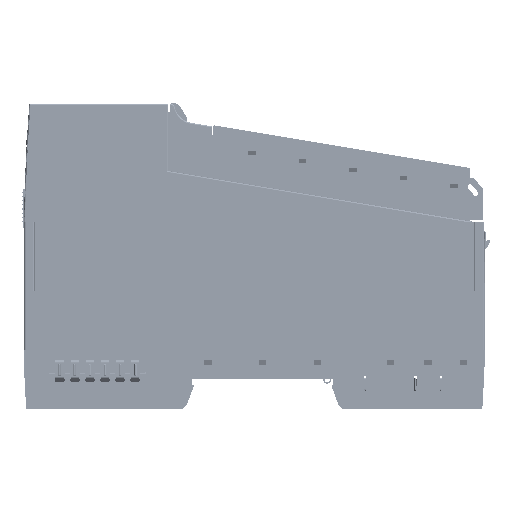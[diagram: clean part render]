
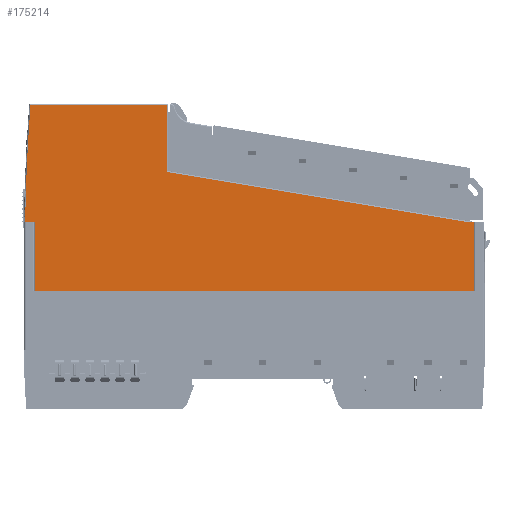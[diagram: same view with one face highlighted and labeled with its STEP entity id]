
A CAD part, left-side view. The second image highlights one B-rep face of the part: STEP entity #175214.
In plain terms, the highlighted planar face has unit normal (-1, 0, 0).
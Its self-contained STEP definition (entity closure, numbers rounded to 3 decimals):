
#2025 = VERTEX_POINT ( 'NONE', #106211 ) ;
#9051 = FACE_OUTER_BOUND ( 'NONE', #112896, .T. ) ;
#10006 = LINE ( 'NONE', #313003, #12385 ) ;
#12385 = VECTOR ( 'NONE', #236798, 1000. ) ;
#15262 = DIRECTION ( 'NONE',  ( 0., 0., -1. ) ) ;
#17752 = DIRECTION ( 'NONE',  ( 0., 0., -1. ) ) ;
#18483 = VECTOR ( 'NONE', #97187, 1000. ) ;
#25644 = AXIS2_PLACEMENT_3D ( 'NONE', #188405, #289984, #244167 ) ;
#29007 = EDGE_CURVE ( 'NONE', #291456, #278086, #188710, .T. ) ;
#33957 = CARTESIAN_POINT ( 'NONE',  ( -6.9, -51.3, 0. ) ) ;
#34729 = CARTESIAN_POINT ( 'NONE',  ( -6.9, -14.43, 14.623 ) ) ;
#43679 = LINE ( 'NONE', #297579, #152074 ) ;
#45323 = DIRECTION ( 'NONE',  ( 0., 0., 1. ) ) ;
#54159 = DIRECTION ( 'NONE',  ( 0., -1., 0. ) ) ;
#57132 = VECTOR ( 'NONE', #17752, 1000. ) ;
#60026 = CARTESIAN_POINT ( 'NONE',  ( -6.9, -51.3, -7.5 ) ) ;
#70711 = LINE ( 'NONE', #72382, #120027 ) ;
#72382 = CARTESIAN_POINT ( 'NONE',  ( -6.9, 55.3, 0. ) ) ;
#73496 = CARTESIAN_POINT ( 'NONE',  ( -6.9, 55.301, 9. ) ) ;
#76142 = CARTESIAN_POINT ( 'NONE',  ( -6.9, 55.3, -7.5 ) ) ;
#77015 = CARTESIAN_POINT ( 'NONE',  ( -6.9, -51.3, 9. ) ) ;
#85056 = ORIENTED_EDGE ( 'NONE', *, *, #134827, .F. ) ;
#91879 = ORIENTED_EDGE ( 'NONE', *, *, #273527, .F. ) ;
#97187 = DIRECTION ( 'NONE',  ( 0., 1., 0. ) ) ;
#102208 = LINE ( 'NONE', #73496, #18483 ) ;
#106211 = CARTESIAN_POINT ( 'NONE',  ( -6.9, 56.499, 9. ) ) ;
#109974 = ORIENTED_EDGE ( 'NONE', *, *, #196902, .F. ) ;
#112377 = VERTEX_POINT ( 'NONE', #77015 ) ;
#112896 = EDGE_LOOP ( 'NONE', ( #85056, #91879, #169360, #313225, #187881, #162993, #303193, #109974, #229846 ) ) ;
#120027 = VECTOR ( 'NONE', #45323, 1000. ) ;
#134827 = EDGE_CURVE ( 'NONE', #160859, #291456, #147960, .T. ) ;
#141014 = VECTOR ( 'NONE', #15262, 1000. ) ;
#147960 = LINE ( 'NONE', #249517, #57132 ) ;
#150134 = VERTEX_POINT ( 'NONE', #168495 ) ;
#152074 = VECTOR ( 'NONE', #170588, 1000. ) ;
#152371 = CARTESIAN_POINT ( 'NONE',  ( -6.9, -51.3, -7.5 ) ) ;
#157083 = EDGE_CURVE ( 'NONE', #209231, #187325, #70711, .T. ) ;
#159753 = DIRECTION ( 'NONE',  ( 1., 0., 0. ) ) ;
#160859 = VERTEX_POINT ( 'NONE', #273615 ) ;
#162993 = ORIENTED_EDGE ( 'NONE', *, *, #247109, .T. ) ;
#168495 = CARTESIAN_POINT ( 'NONE',  ( -6.9, 55.23, 36.7 ) ) ;
#169360 = ORIENTED_EDGE ( 'NONE', *, *, #192914, .F. ) ;
#170588 = DIRECTION ( 'NONE',  ( 0., -1., 0. ) ) ;
#175214 = ADVANCED_FACE ( 'NONE', ( #9051 ), #191740, .T. ) ;
#178777 = EDGE_CURVE ( 'NONE', #112377, #248101, #221654, .T. ) ;
#187325 = VERTEX_POINT ( 'NONE', #223234 ) ;
#187881 = ORIENTED_EDGE ( 'NONE', *, *, #157083, .F. ) ;
#188405 = CARTESIAN_POINT ( 'NONE',  ( -6.9, -50., 0. ) ) ;
#188710 = LINE ( 'NONE', #34729, #233278 ) ;
#191740 = PLANE ( 'NONE',  #25644 ) ;
#192914 = EDGE_CURVE ( 'NONE', #2025, #150134, #248665, .T. ) ;
#194778 = CARTESIAN_POINT ( 'NONE',  ( -6.9, -48.175, 9. ) ) ;
#196902 = EDGE_CURVE ( 'NONE', #278086, #112377, #10006, .T. ) ;
#209231 = VERTEX_POINT ( 'NONE', #76142 ) ;
#211674 = CARTESIAN_POINT ( 'NONE',  ( -6.9, 22.8, 20.826 ) ) ;
#213885 = DIRECTION ( 'NONE',  ( 0., 0.999, 0.046 ) ) ;
#221654 = LINE ( 'NONE', #33957, #141014 ) ;
#223234 = CARTESIAN_POINT ( 'NONE',  ( -6.9, 55.3, 9. ) ) ;
#223813 = VECTOR ( 'NONE', #54159, 1000. ) ;
#229308 = EDGE_CURVE ( 'NONE', #187325, #2025, #102208, .T. ) ;
#229846 = ORIENTED_EDGE ( 'NONE', *, *, #29007, .F. ) ;
#233278 = VECTOR ( 'NONE', #241143, 1000. ) ;
#236798 = DIRECTION ( 'NONE',  ( 0., -1., 0. ) ) ;
#241143 = DIRECTION ( 'NONE',  ( 0., -0.986, -0.164 ) ) ;
#244167 = DIRECTION ( 'NONE',  ( 0., 0.707, 0.707 ) ) ;
#247109 = EDGE_CURVE ( 'NONE', #209231, #248101, #257282, .T. ) ;
#248101 = VERTEX_POINT ( 'NONE', #60026 ) ;
#248665 = CIRCLE ( 'NONE', #254241, 499.4 ) ;
#249517 = CARTESIAN_POINT ( 'NONE',  ( -6.9, 22.8, 18.5 ) ) ;
#254241 = AXIS2_PLACEMENT_3D ( 'NONE', #288396, #159753, #213885 ) ;
#257282 = LINE ( 'NONE', #152371, #223813 ) ;
#273527 = EDGE_CURVE ( 'NONE', #150134, #160859, #43679, .T. ) ;
#273615 = CARTESIAN_POINT ( 'NONE',  ( -6.9, 22.8, 36.7 ) ) ;
#278086 = VERTEX_POINT ( 'NONE', #194778 ) ;
#288396 = CARTESIAN_POINT ( 'NONE',  ( -6.9, -442.82, 0. ) ) ;
#289984 = DIRECTION ( 'NONE',  ( -1., 0., 0. ) ) ;
#291456 = VERTEX_POINT ( 'NONE', #211674 ) ;
#297579 = CARTESIAN_POINT ( 'NONE',  ( -6.9, -24.809, 36.7 ) ) ;
#303193 = ORIENTED_EDGE ( 'NONE', *, *, #178777, .F. ) ;
#313003 = CARTESIAN_POINT ( 'NONE',  ( -6.9, -50.739, 9. ) ) ;
#313225 = ORIENTED_EDGE ( 'NONE', *, *, #229308, .F. ) ;
